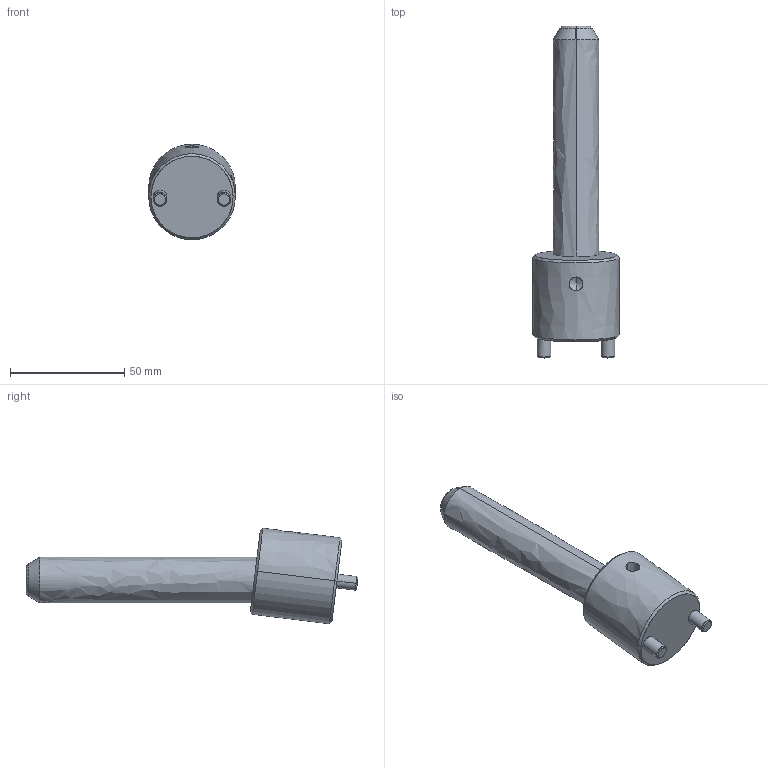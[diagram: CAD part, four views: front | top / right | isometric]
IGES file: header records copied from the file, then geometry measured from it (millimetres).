
Start section: START RECORD GO HERE.
Global section: file name: CI0720100.igs; native system: DASSAULT SYSTEMES CATIA V5 R20 - www.3ds.com; preprocessor: CATIA Version 5 Release 20 ; author: r.borello; organization: CFTORINO; date: 20190624.090823; units: millimetre
Bounding box: 38 x 145.46 x 41.86 mm (x, y, z)
Surface area: 17466.6 mm2 (no closed solid volume)
Topology: 0 solids, 0 shells, 39 faces, 162 edges, 160 vertices
Faces by surface type: revolution 32, plane 7
